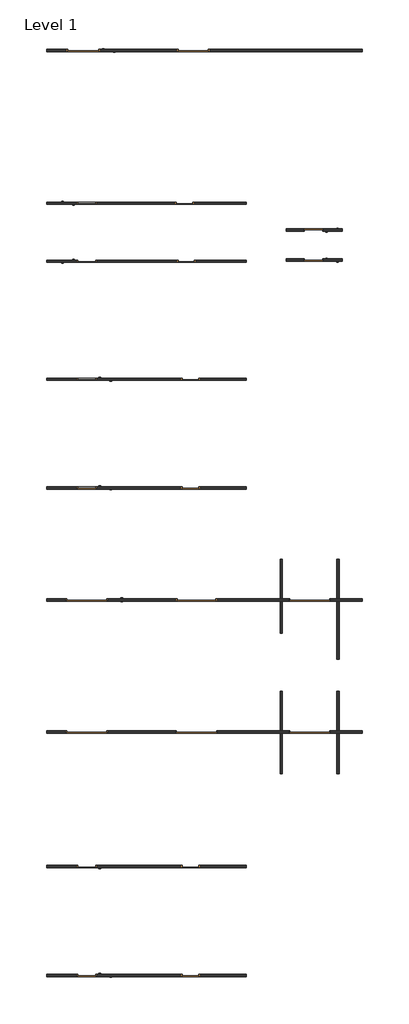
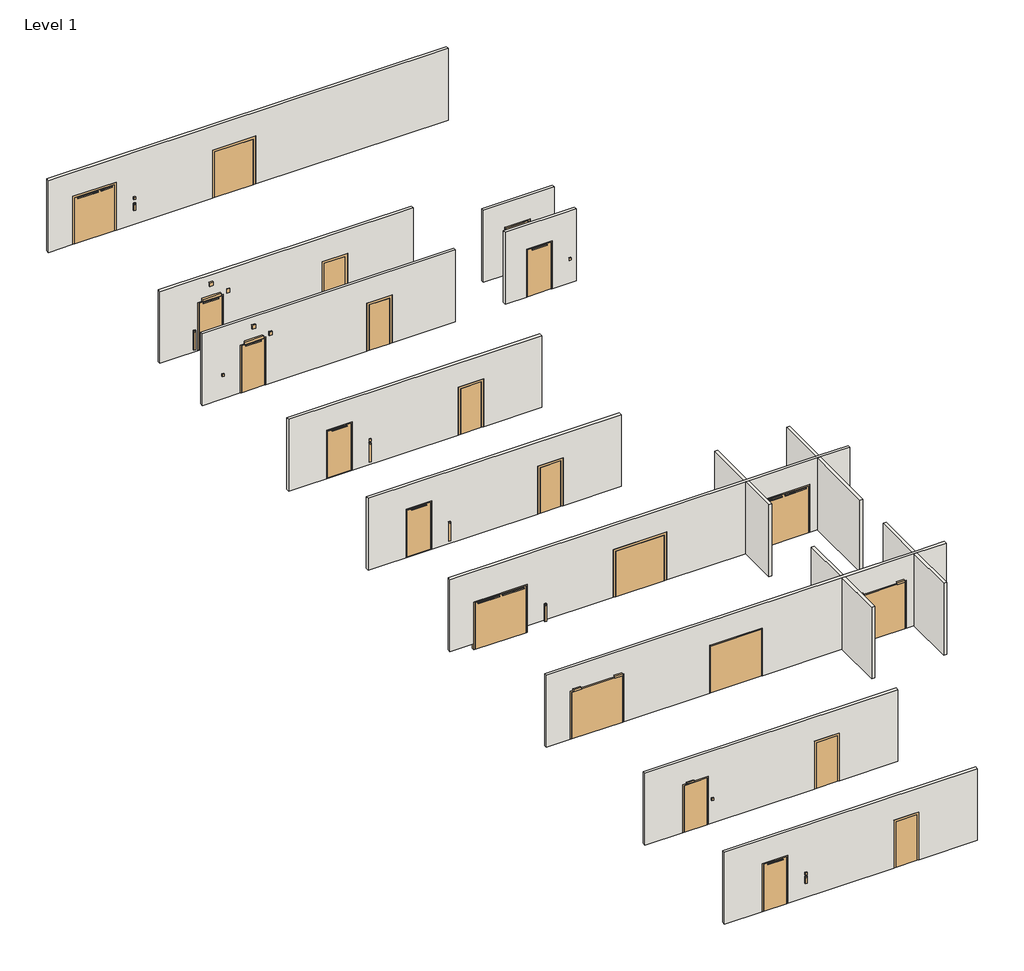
# One storey: 22 doors, 15 walls.
"""IFC4 building model written with IfcOpenShell, lengths in millimetres."""

from ifc_helpers import new_model, si_unit, frame, origin, origin_with_axes, place, context, project, spatial, polyline, outline, extrude, faceted_brep, transform, mapped, element, save
from components import door_903a203e, door_21350628, door_8c2f3970, door_a1db4724, door_87b074fd, door_4ac7e3a7, door_93c91c87, door_cd6877d1, door_1f03e138, door_497745e8, door_7ab25be9, door_583c14d2, door_583d42d9, door_fafea6f1, door_29db4bb8, door_32286c39

model = new_model("IFC4")

# Units and contexts
model_context = context("Model", 3, world=origin())
ifc_project = project(units=[si_unit("LENGTHUNIT", "METRE", prefix="MILLI")], contexts=[model_context])

# Site, building, storey
site = spatial("IfcSite", under=ifc_project)
building = spatial("IfcBuilding", under=site)
storey = spatial("IfcBuildingStorey", under=building, Name="Level 1", Elevation=0.0)

# Doors
placement = place(None, origin())
door_shape = door_903a203e(model_context)
element("IfcDoor", 1, ObjectType="LOC_Pardörr assymetrisk : LOC_Pardörr assymetrisk Karm=100", at=placement, inside=storey, context=model_context, shape_type="MappedRepresentation", body=[
    mapped(door_shape, transform((2274.0592777, 15169.045789, 0.0), x_axis=(-1.0, 0.0, 0.0), y_axis=(0.0, -1.0, 0.0), z_axis=(0.0, 0.0, 1.0))),
])
door_2_shape = door_21350628(model_context)
element("IfcDoor", 2, ObjectType="LOC_Enkeldörr : LOC_Enkeldörr", at=placement, inside=storey, context=model_context, shape_type="MappedRepresentation", body=[
    mapped(door_2_shape, transform((-3055.9407223, 7527.7892945, 20.0), x_axis=(-1.0, 0.0, 0.0), y_axis=(0.0, -1.0, 0.0), z_axis=(0.0, 0.0, 1.0))),
])
door_3_shape = door_8c2f3970(model_context)
element("IfcDoor", 3, ObjectType="LOC_Enkeldörr : LOC_Enkeldörr Karm=100", at=placement, inside=storey, context=model_context, shape_type="MappedRepresentation", body=[
    mapped(door_3_shape, transform((1844.0592777, 7527.7892945, 0.0), x_axis=(-1.0, 0.0, 0.0), y_axis=(0.0, -1.0, 0.0), z_axis=(0.0, 0.0, 1.0))),
])
element("IfcDoor", 4, ObjectType="LOC_Enkeldörr : LOC_Enkeldörr Karm=100", at=placement, inside=storey, context=model_context, shape_type="MappedRepresentation", body=[
    mapped(door_3_shape, transform((1934.0592777, 4627.7892945, 0.0), x_axis=(-1.0, 0.0, 0.0), y_axis=(0.0, -1.0, 0.0), z_axis=(0.0, 0.0, 1.0))),
])
door_4_shape = door_a1db4724(model_context)
element("IfcDoor", 5, ObjectType="LOC_Enkeldörr : LOC_Enkeldörr", at=placement, inside=storey, context=model_context, shape_type="MappedRepresentation", body=[
    mapped(door_4_shape, transform((-3055.9407223, 4627.7892945, 0.0), x_axis=(-1.0, 0.0, 0.0), y_axis=(0.0, -1.0, 0.0), z_axis=(0.0, 0.0, 1.0))),
])
element("IfcDoor", 6, ObjectType="LOC_Enkeldörr : LOC_Enkeldörr", at=placement, inside=storey, context=model_context, shape_type="MappedRepresentation", body=[
    mapped(door_4_shape, transform((8290.8191983, 6190.6559693, 0.0), x_axis=(1.0, 0.0, 0.0), y_axis=(0.0, 1.0, 0.0), z_axis=(0.0, 0.0, 1.0))),
])
door_5_shape = door_87b074fd(model_context)
element("IfcDoor", 7, ObjectType="LOC_Enkeldörr : LOC_Enkeldörr", at=placement, inside=storey, context=model_context, shape_type="MappedRepresentation", body=[
    mapped(door_5_shape, transform((8290.8191983, 4687.7892945, 0.0), x_axis=(1.0, 0.0, 0.0), y_axis=(0.0, 1.0, 0.0), z_axis=(0.0, 0.0, 1.0))),
])
door_6_shape = door_4ac7e3a7(model_context)
element("IfcDoor", 8, ObjectType="LOC_Enkeldörr : LOC_Enkeldörr", at=placement, inside=storey, context=model_context, shape_type="MappedRepresentation", body=[
    mapped(door_6_shape, transform((-3055.9407223, -1272.2107055, 20.0), x_axis=(1.0, 0.0, 0.0), y_axis=(0.0, 1.0, 0.0), z_axis=(0.0, 0.0, 1.0))),
])
door_7_shape = door_93c91c87(model_context)
element("IfcDoor", 9, ObjectType="LOC_Enkeldörr : LOC_Enkeldörr Karm=100", at=placement, inside=storey, context=model_context, shape_type="MappedRepresentation", body=[
    mapped(door_7_shape, transform((2144.0592777, -1272.2107055, 0.0), x_axis=(1.0, 0.0, 0.0), y_axis=(0.0, 1.0, 0.0), z_axis=(0.0, 0.0, 1.0))),
])
element("IfcDoor", 10, ObjectType="LOC_Enkeldörr : LOC_Enkeldörr Karm=100", at=placement, inside=storey, context=model_context, shape_type="MappedRepresentation", body=[
    mapped(door_7_shape, transform((2144.0592777, -6713.4672, 0.0), x_axis=(1.0, 0.0, 0.0), y_axis=(0.0, 1.0, 0.0), z_axis=(0.0, 0.0, 1.0))),
])
element("IfcDoor", 11, ObjectType="LOC_Enkeldörr : LOC_Enkeldörr Karm=100", at=placement, inside=storey, context=model_context, shape_type="MappedRepresentation", body=[
    mapped(door_7_shape, transform((2144.0592777, -25654.7236944, 0.0), x_axis=(1.0, 0.0, 0.0), y_axis=(0.0, 1.0, 0.0), z_axis=(0.0, 0.0, 1.0))),
])
door_8_shape = door_cd6877d1(model_context)
element("IfcDoor", 12, ObjectType="LOC_Enkeldörr : LOC_Enkeldörr", at=placement, inside=storey, context=model_context, shape_type="MappedRepresentation", body=[
    mapped(door_8_shape, transform((-3055.9407223, -6713.4672, 20.0), x_axis=(1.0, 0.0, 0.0), y_axis=(0.0, 1.0, 0.0), z_axis=(0.0, 0.0, 1.0))),
])
door_9_shape = door_1f03e138(model_context)
element("IfcDoor", 13, ObjectType="LOC_Enkeldörr : LOC_Enkeldörr", at=placement, inside=storey, context=model_context, shape_type="MappedRepresentation", body=[
    mapped(door_9_shape, transform((-3055.9407223, -25654.7236944, 0.0), x_axis=(1.0, 0.0, 0.0), y_axis=(0.0, 1.0, 0.0), z_axis=(0.0, 0.0, 1.0))),
])
element("IfcDoor", 14, ObjectType="LOC_Enkeldörr : LOC_Enkeldörr Karm=100", at=placement, inside=storey, context=model_context, shape_type="MappedRepresentation", body=[
    mapped(door_7_shape, transform((2144.0592777, -31095.9801889, 0.0), x_axis=(1.0, 0.0, 0.0), y_axis=(0.0, 1.0, 0.0), z_axis=(0.0, 0.0, 1.0))),
])
door_10_shape = door_497745e8(model_context)
element("IfcDoor", 15, ObjectType="LOC_Enkeldörr : LOC_Enkeldörr", at=placement, inside=storey, context=model_context, shape_type="MappedRepresentation", body=[
    mapped(door_10_shape, transform((-3055.9407223, -31095.9801889, 0.0), x_axis=(1.0, 0.0, 0.0), y_axis=(0.0, 1.0, 0.0), z_axis=(0.0, 0.0, 1.0))),
])
door_11_shape = door_7ab25be9(model_context)
element("IfcDoor", 16, ObjectType="LOC_Pardörr assymetrisk : LOC_Pardörr assymetrisk", at=placement, inside=storey, context=model_context, shape_type="MappedRepresentation", body=[
    mapped(door_11_shape, transform((-3235.9407223, 15169.045789, 0.0), x_axis=(-1.0, 0.0, 0.0), y_axis=(0.0, -1.0, 0.0), z_axis=(0.0, 0.0, 1.0))),
])
door_12_shape = door_583c14d2(model_context)
element("IfcDoor", 17, ObjectType="LOC_Pardörr : LOC_Pardörr", at=placement, inside=storey, context=model_context, shape_type="MappedRepresentation", body=[
    mapped(door_12_shape, transform((-3055.9407223, -12313.4672, -265.125), x_axis=(-1.0, 0.0, 0.0), y_axis=(0.0, -1.0, 0.0), z_axis=(0.0, 0.0, 1.0))),
])
door_13_shape = door_583d42d9(model_context)
element("IfcDoor", 18, ObjectType="LOC_Pardörr : LOC_Pardörr Karm = 100", at=placement, inside=storey, context=model_context, shape_type="MappedRepresentation", body=[
    mapped(door_13_shape, transform((2444.0592777, -12313.4672, 0.0), x_axis=(1.0, 0.0, 0.0), y_axis=(0.0, 1.0, 0.0), z_axis=(0.0, 0.0, 1.0))),
])
door_14_shape = door_fafea6f1(model_context)
element("IfcDoor", 19, ObjectType="LOC_Pardörr : LOC_Pardörr", at=placement, inside=storey, context=model_context, shape_type="MappedRepresentation", body=[
    mapped(door_14_shape, transform((8100.5394864, -12313.4672, 0.0), x_axis=(-1.0, 0.0, 0.0), y_axis=(0.0, -1.0, 0.0), z_axis=(0.0, 0.0, 1.0))),
])
door_15_shape = door_29db4bb8(model_context)
element("IfcDoor", 20, ObjectType="LOC_Pardörr : LOC_Pardörr", at=placement, inside=storey, context=model_context, shape_type="MappedRepresentation", body=[
    mapped(door_15_shape, transform((-3055.9407223, -18913.4672, 0.0), x_axis=(-1.0, 0.0, 0.0), y_axis=(0.0, -1.0, 0.0), z_axis=(0.0, 0.0, 1.0))),
])
door_16_shape = door_32286c39(model_context)
element("IfcDoor", 21, ObjectType="LOC_Pardörr : LOC_Pardörr", at=placement, inside=storey, context=model_context, shape_type="MappedRepresentation", body=[
    mapped(door_16_shape, transform((2444.0592777, -18913.4672, 0.0), x_axis=(1.0, 0.0, 0.0), y_axis=(0.0, 1.0, 0.0), z_axis=(0.0, 0.0, 1.0))),
])
element("IfcDoor", 22, ObjectType="LOC_Pardörr : LOC_Pardörr", at=placement, inside=storey, context=model_context, shape_type="MappedRepresentation", body=[
    mapped(door_15_shape, transform((8100.5394864, -18913.4672, 0.0), x_axis=(-1.0, 0.0, 0.0), y_axis=(0.0, -1.0, 0.0), z_axis=(0.0, 0.0, 1.0))),
])

# Walls
element("IfcWall", 23, ObjectType="VÄGG DÖRRAR", at=placement, inside=storey, context=model_context, shape_type="SweptSolid", body=[
    extrude(outline(polyline([(0.0, 4939.0592777), (3000.0, 4939.0592777), (3000.0, -5060.9407223), (0.0, -5060.9407223), (0.0, 1339.0592777), (2000.0, 1339.0592777), (2000.0, 2349.0592777), (0.0, 2349.0592777), (0.0, 4939.0592777)]), holes=[polyline([(20.0, -3560.9407223), (2020.0, -3560.9407223), (2020.0, -2550.9407223), (20.0, -2550.9407223), (20.0, -3560.9407223)])]), frame((0.0, 7467.7892945, 0.0), z_axis=(0.0, 1.0, 0.0), x_axis=(0.0, 0.0, 1.0)), (0.0, 0.0, 1.0), 120.0),
])
element("IfcWall", 24, ObjectType="VÄGG DÖRRAR", at=placement, inside=storey, context=model_context, shape_type="SweptSolid", body=[
    extrude(outline(polyline([(0.0, 4939.0592777), (3000.0, 4939.0592777), (3000.0, -5060.9407223), (0.0, -5060.9407223), (0.0, -3560.9407223), (2000.0, -3560.9407223), (2000.0, -2550.9407223), (0.0, -2550.9407223), (0.0, 1429.0592777), (2000.0, 1429.0592777), (2000.0, 2439.0592777), (0.0, 2439.0592777), (0.0, 4939.0592777)])), frame((0.0, 4567.7892945, 0.0), z_axis=(0.0, 1.0, 0.0), x_axis=(0.0, 0.0, 1.0)), (0.0, 0.0, 1.0), 120.0),
])
element("IfcWall", 25, ObjectType="VÄGG DÖRRAR", at=placement, inside=storey, context=model_context, shape_type="SweptSolid", body=[
    extrude(outline(polyline([(0.0, 9740.8191983), (3000.0, 9740.8191983), (3000.0, 6940.8191983), (0.0, 6940.8191983), (0.0, 7785.8191983), (2000.0, 7785.8191983), (2000.0, 8795.8191983), (0.0, 8795.8191983), (0.0, 9740.8191983)])), frame((0.0, 6130.6559693, 0.0), z_axis=(0.0, 1.0, 0.0), x_axis=(0.0, 0.0, 1.0)), (0.0, 0.0, 1.0), 120.0),
])
element("IfcWall", 26, ObjectType="VÄGG DÖRRAR", at=placement, inside=storey, context=model_context, shape_type="SweptSolid", body=[
    extrude(outline(polyline([(0.0, 9740.8191983), (3000.0, 9740.8191983), (3000.0, 6940.8191983), (0.0, 6940.8191983), (0.0, 7785.8191983), (2000.0, 7785.8191983), (2000.0, 8795.8191983), (0.0, 8795.8191983), (0.0, 9740.8191983)])), frame((0.0, 4627.7892945, 0.0), z_axis=(0.0, 1.0, 0.0), x_axis=(0.0, 0.0, 1.0)), (0.0, 0.0, 1.0), 120.0),
])
element("IfcWall", 27, ObjectType="VÄGG DÖRRAR", at=placement, inside=storey, context=model_context, shape_type="SweptSolid", body=[
    extrude(outline(polyline([(0.0, 4939.0592777), (3000.0, 4939.0592777), (3000.0, -5060.9407223), (0.0, -5060.9407223), (0.0, 1639.0592777), (2000.0, 1639.0592777), (2000.0, 2649.0592777), (0.0, 2649.0592777), (0.0, 4939.0592777)]), holes=[polyline([(2020.0, -2550.9407223), (20.0, -2550.9407223), (20.0, -3560.9407223), (2020.0, -3560.9407223), (2020.0, -2550.9407223)])]), frame((0.0, -1332.2107055, 0.0), z_axis=(0.0, 1.0, 0.0), x_axis=(0.0, 0.0, 1.0)), (0.0, 0.0, 1.0), 120.0),
])
element("IfcWall", 28, ObjectType="VÄGG DÖRRAR", at=placement, inside=storey, context=model_context, shape_type="SweptSolid", body=[
    extrude(outline(polyline([(0.0, 4939.0592777), (3000.0, 4939.0592777), (3000.0, -5060.9407223), (0.0, -5060.9407223), (0.0, 1639.0592777), (2000.0, 1639.0592777), (2000.0, 2649.0592777), (0.0, 2649.0592777), (0.0, 4939.0592777)]), holes=[polyline([(2020.0, -2550.9407223), (20.0, -2550.9407223), (20.0, -3560.9407223), (2020.0, -3560.9407223), (2020.0, -2550.9407223)])]), frame((0.0, -6773.4672, 0.0), z_axis=(0.0, 1.0, 0.0), x_axis=(0.0, 0.0, 1.0)), (0.0, 0.0, 1.0), 120.0),
])
element("IfcWall", 29, ObjectType="VÄGG DÖRRAR", at=placement, inside=storey, context=model_context, shape_type="Brep", body=[
    faceted_brep([(10739.0592777, -12373.4672, 0.0), (10739.0592777, -12373.4672, 3000.0), (9580.5394864, -12373.4672, 3000.0), (9460.5394864, -12373.4672, 3000.0), (6740.5394864, -12373.4672, 3000.0), (6620.5394864, -12373.4672, 3000.0), (-5060.9407223, -12373.4672, 3000.0), (-5060.9407223, -12373.4672, 0.0), (-4110.9407223, -12373.4672, 0.0), (-4110.9407223, -12373.4672, 1734.875), (-2000.9407223, -12373.4672, 1734.875), (-2000.9407223, -12373.4672, 0.0), (1389.0592777, -12373.4672, 0.0), (1389.0592777, -12373.4672, 2000.0), (3499.0592777, -12373.4672, 2000.0), (3499.0592777, -12373.4672, 0.0), (6620.5394864, -12373.4672, 0.0), (6740.5394864, -12373.4672, 0.0), (7045.5394864, -12373.4672, 0.0), (7045.5394864, -12373.4672, 2000.0), (9155.5394864, -12373.4672, 2000.0), (9155.5394864, -12373.4672, 0.0), (9460.5394864, -12373.4672, 0.0), (9580.5394864, -12373.4672, 0.0), (10739.0592777, -12253.4672, 3000.0), (10739.0592777, -12253.4672, 0.0), (9580.5394864, -12253.4672, 0.0), (9460.5394864, -12253.4672, 0.0), (9155.5394864, -12253.4672, 0.0), (9155.5394864, -12253.4672, 2000.0), (7045.5394864, -12253.4672, 2000.0), (7045.5394864, -12253.4672, 0.0), (6740.5394864, -12253.4672, 0.0), (6620.5394864, -12253.4672, 0.0), (3499.0592777, -12253.4672, 0.0), (3499.0592777, -12253.4672, 2000.0), (1389.0592777, -12253.4672, 2000.0), (1389.0592777, -12253.4672, 0.0), (-2000.9407223, -12253.4672, 0.0), (-2000.9407223, -12253.4672, 1734.875), (-4110.9407223, -12253.4672, 1734.875), (-4110.9407223, -12253.4672, 0.0), (-5060.9407223, -12253.4672, 0.0), (-5060.9407223, -12253.4672, 3000.0), (6620.5394864, -12253.4672, 3000.0), (6740.5394864, -12253.4672, 3000.0), (9460.5394864, -12253.4672, 3000.0), (9580.5394864, -12253.4672, 3000.0)], [[[0, 1, 2, 3, 4, 5, 6, 7, 8, 9, 10, 11, 12, 13, 14, 15, 16, 17, 18, 19, 20, 21, 22, 23]], [[24, 25, 26, 27, 28, 29, 30, 31, 32, 33, 34, 35, 36, 37, 38, 39, 40, 41, 42, 43, 44, 45, 46, 47]], [[25, 0, 23, 22, 21, 28, 27, 26]], [[7, 42, 41, 8]], [[11, 38, 37, 12]], [[15, 34, 33, 32, 31, 18, 17, 16]], [[1, 0, 25, 24]], [[6, 5, 4, 3, 2, 1, 24, 47, 46, 45, 44, 43]], [[7, 6, 43, 42]], [[40, 9, 8, 41]], [[9, 40, 39, 10]], [[10, 39, 38, 11]], [[14, 35, 34, 15]], [[35, 14, 13, 36]], [[36, 13, 12, 37]], [[30, 19, 18, 31]], [[19, 30, 29, 20]], [[20, 29, 28, 21]]]),
])
element("IfcWall", 30, ObjectType="VÄGG DÖRRAR", at=placement, inside=storey, context=model_context, shape_type="SweptSolid", body=[
    extrude(outline(polyline([(6740.5394864, -13970.018312), (6620.5394864, -13970.018312), (6620.5394864, -12373.4672), (6740.5394864, -12373.4672), (6740.5394864, -13970.018312)])), origin_with_axes(), (0.0, 0.0, 1.0), 3000.0),
    extrude(outline(polyline([(6620.5394864, -10270.018312), (6740.5394864, -10270.018312), (6740.5394864, -12253.4672), (6620.5394864, -12253.4672), (6620.5394864, -10270.018312)])), origin_with_axes(), (0.0, 0.0, 1.0), 3000.0),
])
element("IfcWall", 31, ObjectType="VÄGG DÖRRAR", at=placement, inside=storey, context=model_context, shape_type="SweptSolid", body=[
    extrude(outline(polyline([(9580.5394864, -15270.018312), (9460.5394864, -15270.018312), (9460.5394864, -12373.4672), (9580.5394864, -12373.4672), (9580.5394864, -15270.018312)])), origin_with_axes(), (0.0, 0.0, 1.0), 3000.0),
    extrude(outline(polyline([(9460.5394864, -10270.018312), (9580.5394864, -10270.018312), (9580.5394864, -12253.4672), (9460.5394864, -12253.4672), (9460.5394864, -10270.018312)])), origin_with_axes(), (0.0, 0.0, 1.0), 3000.0),
])
element("IfcWall", 32, ObjectType="VÄGG DÖRRAR", at=placement, inside=storey, context=model_context, shape_type="Brep", body=[
    faceted_brep([(10739.0592777, -18973.4672, 0.0), (10739.0592777, -18973.4672, 3000.0), (9580.5394864, -18973.4672, 3000.0), (9460.5394864, -18973.4672, 3000.0), (6740.5394864, -18973.4672, 3000.0), (6620.5394864, -18973.4672, 3000.0), (-5060.9407223, -18973.4672, 3000.0), (-5060.9407223, -18973.4672, 0.0), (-4110.9407223, -18973.4672, 0.0), (-4110.9407223, -18973.4672, 2000.0), (-2000.9407223, -18973.4672, 2000.0), (-2000.9407223, -18973.4672, 0.0), (1389.0592777, -18973.4672, 0.0), (1389.0592777, -18973.4672, 2000.0), (3499.0592777, -18973.4672, 2000.0), (3499.0592777, -18973.4672, 0.0), (6620.5394864, -18973.4672, 0.0), (6740.5394864, -18973.4672, 0.0), (7045.5394864, -18973.4672, 0.0), (7045.5394864, -18973.4672, 2000.0), (9155.5394864, -18973.4672, 2000.0), (9155.5394864, -18973.4672, 0.0), (9460.5394864, -18973.4672, 0.0), (9580.5394864, -18973.4672, 0.0), (10739.0592777, -18853.4672, 3000.0), (10739.0592777, -18853.4672, 0.0), (9580.5394864, -18853.4672, 0.0), (9460.5394864, -18853.4672, 0.0), (9155.5394864, -18853.4672, 0.0), (9155.5394864, -18853.4672, 2000.0), (7045.5394864, -18853.4672, 2000.0), (7045.5394864, -18853.4672, 0.0), (6740.5394864, -18853.4672, 0.0), (6620.5394864, -18853.4672, 0.0), (3499.0592777, -18853.4672, 0.0), (3499.0592777, -18853.4672, 2000.0), (1389.0592777, -18853.4672, 2000.0), (1389.0592777, -18853.4672, 0.0), (-2000.9407223, -18853.4672, 0.0), (-2000.9407223, -18853.4672, 2000.0), (-4110.9407223, -18853.4672, 2000.0), (-4110.9407223, -18853.4672, 0.0), (-5060.9407223, -18853.4672, 0.0), (-5060.9407223, -18853.4672, 3000.0), (6620.5394864, -18853.4672, 3000.0), (6740.5394864, -18853.4672, 3000.0), (9460.5394864, -18853.4672, 3000.0), (9580.5394864, -18853.4672, 3000.0)], [[[0, 1, 2, 3, 4, 5, 6, 7, 8, 9, 10, 11, 12, 13, 14, 15, 16, 17, 18, 19, 20, 21, 22, 23]], [[24, 25, 26, 27, 28, 29, 30, 31, 32, 33, 34, 35, 36, 37, 38, 39, 40, 41, 42, 43, 44, 45, 46, 47]], [[25, 0, 23, 22, 21, 28, 27, 26]], [[7, 42, 41, 8]], [[11, 38, 37, 12]], [[15, 34, 33, 32, 31, 18, 17, 16]], [[1, 0, 25, 24]], [[6, 5, 4, 3, 2, 1, 24, 47, 46, 45, 44, 43]], [[7, 6, 43, 42]], [[40, 9, 8, 41]], [[9, 40, 39, 10]], [[10, 39, 38, 11]], [[14, 35, 34, 15]], [[35, 14, 13, 36]], [[36, 13, 12, 37]], [[30, 19, 18, 31]], [[19, 30, 29, 20]], [[20, 29, 28, 21]]]),
])
element("IfcWall", 33, ObjectType="VÄGG DÖRRAR", at=placement, inside=storey, context=model_context, shape_type="SweptSolid", body=[
    extrude(outline(polyline([(6740.5394864, -21010.018312), (6620.5394864, -21010.018312), (6620.5394864, -18973.4672), (6740.5394864, -18973.4672), (6740.5394864, -21010.018312)])), origin_with_axes(), (0.0, 0.0, 1.0), 3000.0),
    extrude(outline(polyline([(6620.5394864, -16870.018312), (6740.5394864, -16870.018312), (6740.5394864, -18853.4672), (6620.5394864, -18853.4672), (6620.5394864, -16870.018312)])), origin_with_axes(), (0.0, 0.0, 1.0), 3000.0),
])
element("IfcWall", 34, ObjectType="VÄGG DÖRRAR", at=placement, inside=storey, context=model_context, shape_type="SweptSolid", body=[
    extrude(outline(polyline([(9580.5394864, -21010.018312), (9460.5394864, -21010.018312), (9460.5394864, -18973.4672), (9580.5394864, -18973.4672), (9580.5394864, -21010.018312)])), origin_with_axes(), (0.0, 0.0, 1.0), 3000.0),
    extrude(outline(polyline([(9460.5394864, -16870.018312), (9580.5394864, -16870.018312), (9580.5394864, -18853.4672), (9460.5394864, -18853.4672), (9460.5394864, -16870.018312)])), origin_with_axes(), (0.0, 0.0, 1.0), 3000.0),
])
element("IfcWall", 35, ObjectType="VÄGG DÖRRAR", at=placement, inside=storey, context=model_context, shape_type="SweptSolid", body=[
    extrude(outline(polyline([(0.0, 4939.0592777), (3000.0, 4939.0592777), (3000.0, -5060.9407223), (0.0, -5060.9407223), (0.0, -3560.9407223), (2000.0, -3560.9407223), (2000.0, -2550.9407223), (0.0, -2550.9407223), (0.0, 1639.0592777), (2000.0, 1639.0592777), (2000.0, 2649.0592777), (0.0, 2649.0592777), (0.0, 4939.0592777)])), frame((0.0, -25714.7236944, 0.0), z_axis=(0.0, 1.0, 0.0), x_axis=(0.0, 0.0, 1.0)), (0.0, 0.0, 1.0), 120.0),
])
element("IfcWall", 36, ObjectType="VÄGG DÖRRAR", at=placement, inside=storey, context=model_context, shape_type="SweptSolid", body=[
    extrude(outline(polyline([(0.0, 4939.0592777), (3000.0, 4939.0592777), (3000.0, -5060.9407223), (0.0, -5060.9407223), (0.0, -3560.9407223), (2000.0, -3560.9407223), (2000.0, -2550.9407223), (0.0, -2550.9407223), (0.0, 1639.0592777), (2000.0, 1639.0592777), (2000.0, 2649.0592777), (0.0, 2649.0592777), (0.0, 4939.0592777)])), frame((0.0, -31155.9801889, 0.0), z_axis=(0.0, 1.0, 0.0), x_axis=(0.0, 0.0, 1.0)), (0.0, 0.0, 1.0), 120.0),
])
element("IfcWall", 37, ObjectType="VÄGG DÖRRAR", at=placement, inside=storey, context=model_context, shape_type="SweptSolid", body=[
    extrude(outline(polyline([(0.0, 10739.0592777), (3000.0, 10739.0592777), (3000.0, -5060.9407223), (0.0, -5060.9407223), (0.0, -4085.9407223), (2000.0, -4085.9407223), (2000.0, -2375.9407223), (0.0, -2375.9407223), (0.0, 1424.0592777), (2000.0, 1424.0592777), (2000.0, 3134.0592777), (0.0, 3134.0592777), (0.0, 10739.0592777)])), frame((0.0, 15109.045789, 0.0), z_axis=(0.0, 1.0, 0.0), x_axis=(0.0, 0.0, 1.0)), (0.0, 0.0, 1.0), 120.0),
])

save(model, "model.ifc")
